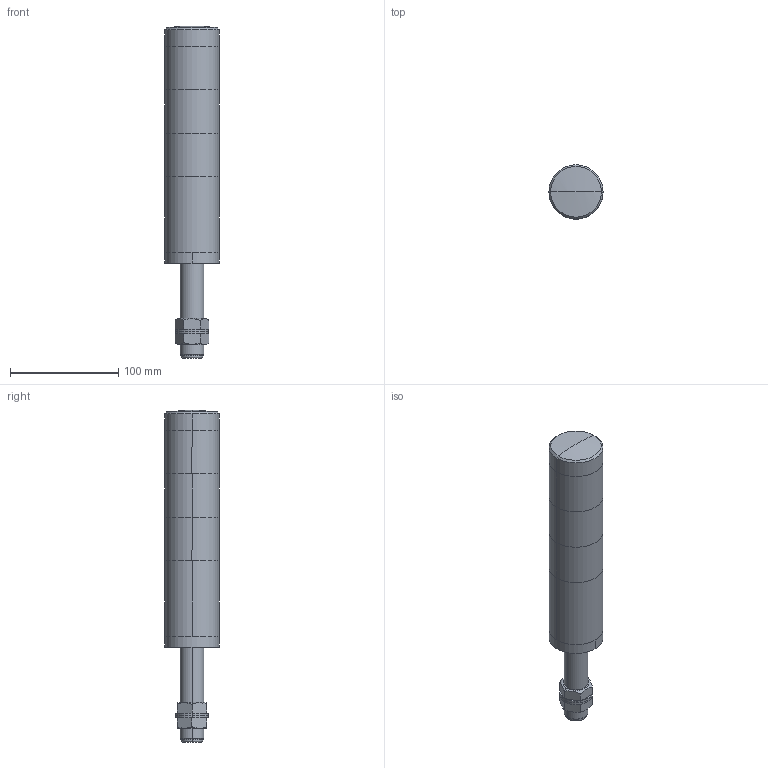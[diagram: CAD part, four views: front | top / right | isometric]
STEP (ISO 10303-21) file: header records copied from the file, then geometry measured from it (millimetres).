
FILE_DESCRIPTION (( 'STEP AP203' ), '1' );
FILE_NAME ('Signal Tower(Short Pole).STEP', '2017-02-22T08:18:56', ( '' ), ( '' ), 'SwSTEP 2.0', 'SolidWorks 2015', '' );
FILE_SCHEMA (( 'CONFIG_CONTROL_DESIGN' ));
Length unit declared in the file: millimetre
Products named in the file (12): LED Unit2; LED Unit3; 22S Washer2; Head Cover; M22 Nut2; Signal Tower(Short Pole); POLE22-100AT; Pole Bracket; M22 Nut1; Body Unit; 22S Washer1; LED Unit1
Assembly tree (11 placements, depth 2):
  Signal Tower(Short Pole)
    M22 Nut1
    22S Washer1
    22S Washer2
    M22 Nut2
    POLE22-100AT
    Pole Bracket
    Body Unit
    LED Unit1
    LED Unit2
    LED Unit3
    Head Cover
Bounding box: 50 x 50 x 306.48 mm (x, y, z)
Volume: 439762.2 mm3; surface area: 94856.5 mm2
Topology: 11 solids, 11 shells, 148 faces, 304 edges, 197 vertices
Faces by surface type: cylinder 76, plane 56, bspline 6, torus 4, cone 4, sphere 2
Entity records: 6414 total; most frequent: CARTESIAN_POINT 1895, DIRECTION 752, ORIENTED_EDGE 608, AXIS2_PLACEMENT_3D 322, EDGE_CURVE 304, VERTEX_POINT 197, EDGE_LOOP 183, CIRCLE 166
